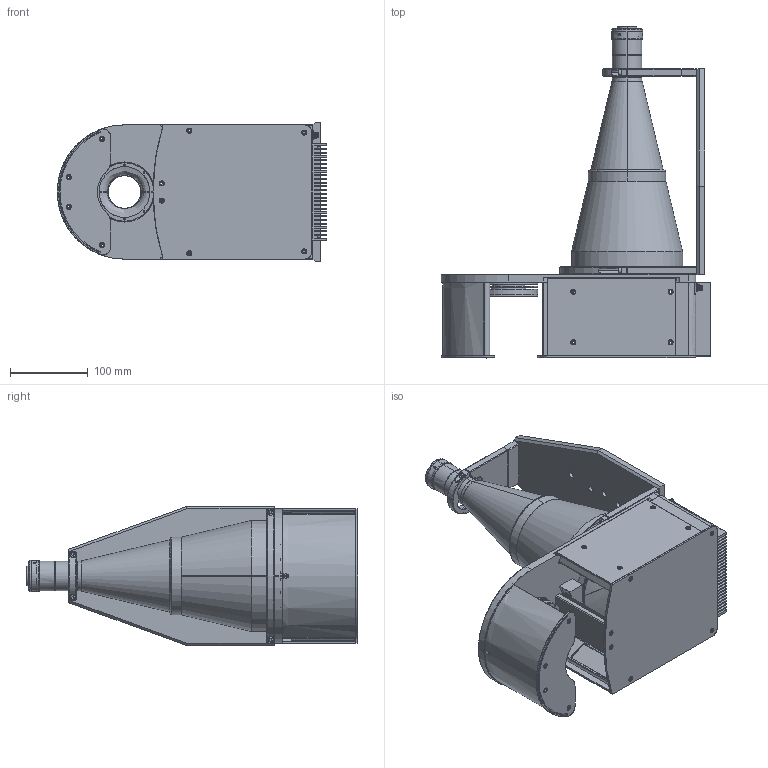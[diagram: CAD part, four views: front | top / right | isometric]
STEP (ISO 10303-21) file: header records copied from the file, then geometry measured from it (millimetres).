
FILE_DESCRIPTION(('LS-TCL-0027'),'2;1');
FILE_NAME('LS-TCL-0027.stp','2026-10-15T21:52:34',('LumaSpec Vision'),('LumaSpec Vision'),'LumaSpec Vision','LumaSpec Vision','');
FILE_SCHEMA(('AUTOMOTIVE_DESIGN { 1 0 10303 214 1 1 1 1 }'));
Length unit declared in the file: millimetre
Products named in the file (1002): LumaSpec Vision
Assembly tree (1001 placements, depth 2):
  LumaSpec Vision
    LumaSpec Vision
    LumaSpec Vision
    LumaSpec Vision
    LumaSpec Vision
    LumaSpec Vision
    LumaSpec Vision
    LumaSpec Vision
    LumaSpec Vision
    LumaSpec Vision
    LumaSpec Vision
    LumaSpec Vision
    LumaSpec Vision
    LumaSpec Vision
    LumaSpec Vision
    LumaSpec Vision
    LumaSpec Vision
    LumaSpec Vision
    LumaSpec Vision
    LumaSpec Vision
    LumaSpec Vision
    LumaSpec Vision
    LumaSpec Vision
    LumaSpec Vision
    LumaSpec Vision
    LumaSpec Vision
    LumaSpec Vision
    LumaSpec Vision
    LumaSpec Vision
    LumaSpec Vision
    LumaSpec Vision
    LumaSpec Vision
    LumaSpec Vision
    LumaSpec Vision
    LumaSpec Vision
    LumaSpec Vision
    LumaSpec Vision
    LumaSpec Vision
    LumaSpec Vision
    LumaSpec Vision
    LumaSpec Vision
    LumaSpec Vision
    LumaSpec Vision
    LumaSpec Vision
    LumaSpec Vision
    LumaSpec Vision
    LumaSpec Vision
    LumaSpec Vision
    LumaSpec Vision
    LumaSpec Vision
    LumaSpec Vision
    LumaSpec Vision
    LumaSpec Vision
    LumaSpec Vision
    LumaSpec Vision
    LumaSpec Vision
    LumaSpec Vision
    LumaSpec Vision
    LumaSpec Vision
    LumaSpec Vision
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Bounding box: 346.95 x 427.56 x 179 mm (x, y, z)
Surface area: 718788.7 mm2 (no closed solid volume)
Topology: 0 solids, 1001 shells, 1001 faces, 16063 edges, 16041 vertices
Faces by surface type: bspline 639, revolution 362
Entity records: 269094 total; most frequent: CARTESIAN_POINT 106246, B_SPLINE_CURVE_WITH_KNOTS 27875, ORIENTED_EDGE 16042, EDGE_CURVE 16042, VERTEX_POINT 16042, SURFACE_CURVE 16042, PCURVE 16042, DEFINITIONAL_REPRESENTATION 16042
